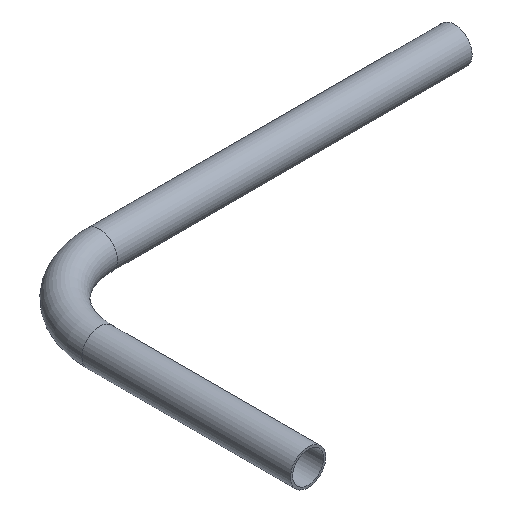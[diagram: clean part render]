
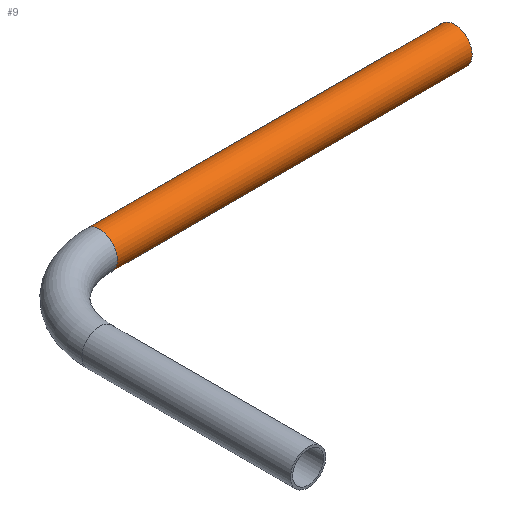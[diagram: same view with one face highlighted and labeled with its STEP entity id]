
A CAD part, isometric view. The second image highlights one B-rep face of the part: STEP entity #9.
In plain terms, the highlighted cylindrical face has radius 24.15 mm (diameter 48.3 mm), a full revolution.
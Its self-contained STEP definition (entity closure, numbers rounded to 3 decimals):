
#5 = CARTESIAN_POINT ( 'NONE',  ( 115., 400., 0. ) ) ;
#9 = ADVANCED_FACE ( 'NONE', ( #55, #238 ), #185, .T. ) ;
#16 = AXIS2_PLACEMENT_3D ( 'NONE', #5, #73, #148 ) ;
#34 = CARTESIAN_POINT ( 'NONE',  ( 115., 400., 0. ) ) ;
#38 = DIRECTION ( 'NONE',  ( 1., 0., 0. ) ) ;
#40 = CARTESIAN_POINT ( 'NONE',  ( 115., 400., 24.15 ) ) ;
#49 = EDGE_CURVE ( 'NONE', #57, #57, #177, .T. ) ;
#55 = FACE_OUTER_BOUND ( 'NONE', #138, .T. ) ;
#57 = VERTEX_POINT ( 'NONE', #40 ) ;
#68 = DIRECTION ( 'NONE',  ( 1., 0., 0. ) ) ;
#73 = DIRECTION ( 'NONE',  ( 1., 0., 0. ) ) ;
#84 = CIRCLE ( 'NONE', #119, 24.15 ) ;
#119 = AXIS2_PLACEMENT_3D ( 'NONE', #173, #38, #184 ) ;
#137 = CARTESIAN_POINT ( 'NONE',  ( 600., 400., 24.15 ) ) ;
#138 = EDGE_LOOP ( 'NONE', ( #143 ) ) ;
#143 = ORIENTED_EDGE ( 'NONE', *, *, #242, .F. ) ;
#148 = DIRECTION ( 'NONE',  ( 0., 0., -1. ) ) ;
#151 = AXIS2_PLACEMENT_3D ( 'NONE', #34, #68, #179 ) ;
#157 = EDGE_LOOP ( 'NONE', ( #194 ) ) ;
#173 = CARTESIAN_POINT ( 'NONE',  ( 600., 400., 0. ) ) ;
#177 = CIRCLE ( 'NONE', #151, 24.15 ) ;
#179 = DIRECTION ( 'NONE',  ( 0., 0., 1. ) ) ;
#184 = DIRECTION ( 'NONE',  ( 0., 0., 1. ) ) ;
#185 = CYLINDRICAL_SURFACE ( 'NONE', #16, 24.15 ) ;
#194 = ORIENTED_EDGE ( 'NONE', *, *, #49, .T. ) ;
#238 = FACE_OUTER_BOUND ( 'NONE', #157, .T. ) ;
#242 = EDGE_CURVE ( 'NONE', #246, #246, #84, .T. ) ;
#246 = VERTEX_POINT ( 'NONE', #137 ) ;
